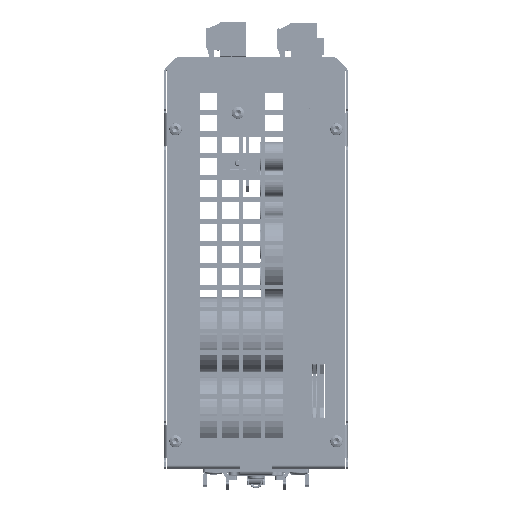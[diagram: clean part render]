
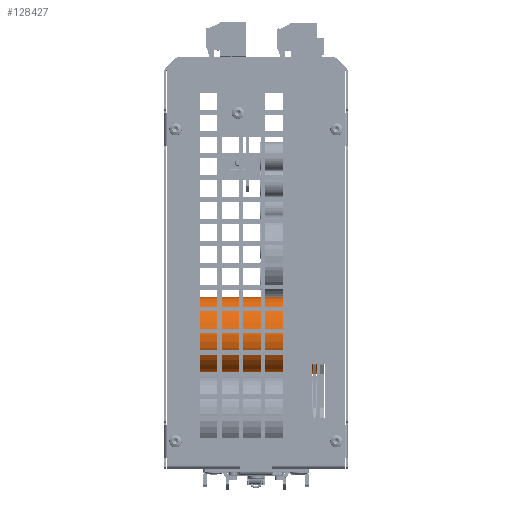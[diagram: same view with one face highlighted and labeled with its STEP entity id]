
A CAD part, top view. The second image highlights one B-rep face of the part: STEP entity #128427.
In plain terms, the highlighted cylindrical face has radius 17.5 mm (diameter 35 mm), a full revolution.
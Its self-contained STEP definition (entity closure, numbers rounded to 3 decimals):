
#10329=FACE_OUTER_BOUND('',#17322,.T.);
#17322=EDGE_LOOP('',(#84921,#84922,#84923,#84924));
#25137=LINE('',#173557,#38819);
#38819=VECTOR('',#144238,17.5);
#52503=CIRCLE('',#136400,17.5);
#52504=CIRCLE('',#136401,17.5);
#54413=VERTEX_POINT('',#173554);
#54414=VERTEX_POINT('',#173556);
#66533=EDGE_CURVE('',#54413,#54413,#52503,.T.);
#66534=EDGE_CURVE('',#54413,#54414,#25137,.T.);
#66535=EDGE_CURVE('',#54414,#54414,#52504,.T.);
#84921=ORIENTED_EDGE('',*,*,#66533,.T.);
#84922=ORIENTED_EDGE('',*,*,#66534,.T.);
#84923=ORIENTED_EDGE('',*,*,#66535,.F.);
#84924=ORIENTED_EDGE('',*,*,#66534,.F.);
#121681=CYLINDRICAL_SURFACE('',#136399,17.5);
#128427=ADVANCED_FACE('',(#10329),#121681,.T.);
#136399=AXIS2_PLACEMENT_3D('',#173553,#144234,#144235);
#136400=AXIS2_PLACEMENT_3D('',#173555,#144236,#144237);
#136401=AXIS2_PLACEMENT_3D('',#173558,#144239,#144240);
#144234=DIRECTION('center_axis',(1.,0.,0.));
#144235=DIRECTION('ref_axis',(0.,0.,1.));
#144236=DIRECTION('center_axis',(-1.,0.,0.));
#144237=DIRECTION('ref_axis',(0.,0.,1.));
#144238=DIRECTION('',(-1.,0.,0.));
#144239=DIRECTION('center_axis',(-1.,0.,0.));
#144240=DIRECTION('ref_axis',(0.,0.,1.));
#173553=CARTESIAN_POINT('Origin',(71.765,276.686,9.976));
#173554=CARTESIAN_POINT('',(135.765,276.686,-7.524));
#173555=CARTESIAN_POINT('Origin',(135.765,276.686,9.976));
#173556=CARTESIAN_POINT('',(71.765,276.686,-7.524));
#173557=CARTESIAN_POINT('',(71.765,276.686,-7.524));
#173558=CARTESIAN_POINT('Origin',(71.765,276.686,9.976));
